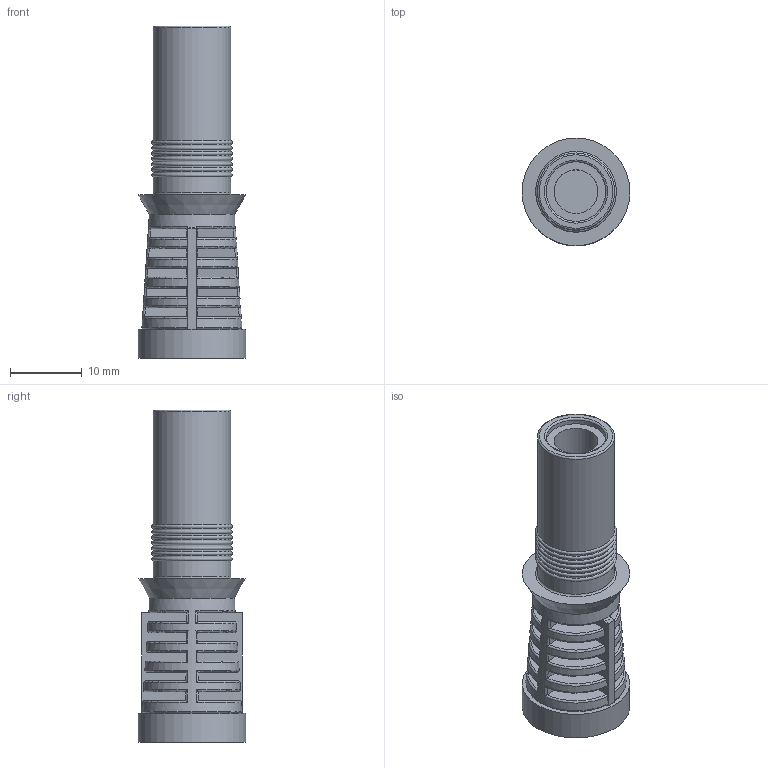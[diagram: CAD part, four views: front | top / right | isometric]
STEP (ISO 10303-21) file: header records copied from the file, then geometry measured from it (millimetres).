
FILE_DESCRIPTION(/* description */ (''),/* implementation_level */ '2;1');
FILE_NAME(/* name */ '2.1 x 5.5 Female Overmould.stp',/* time_stamp */ '2026-07-13T09:08:52+03:00',/* author */ ('USER'),/* organization */ (''),/* preprocessor_version */ 'ST-DEVELOPER v20',/* originating_system */ 'Autodesk Inventor 2025',/* authorisation */ '');
FILE_SCHEMA (('AUTOMOTIVE_DESIGN { 1 0 10303 214 3 1 1 }'));
Length unit declared in the file: millimetre
Products named in the file (1): 2.1 x 5.5 Female Overmould
Bounding box: 15 x 15 x 46.25 mm (x, y, z)
Volume: 3797 mm3; surface area: 3866.4 mm2
Topology: 1 solids, 1 shells, 183 faces, 511 edges, 335 vertices
Faces by surface type: plane 75, torus 54, cylinder 32, bspline 20, cone 2
Full cylindrical faces by diameter (mm): 6.1 x1, 8.3 x1, 10.75 x8, 14 x1, 15 x1
Entity records: 7459 total; most frequent: CARTESIAN_POINT 2944, ORIENTED_EDGE 1022, DIRECTION 860, EDGE_CURVE 511, AXIS2_PLACEMENT_3D 353, VERTEX_POINT 335, CIRCLE 189, EDGE_LOOP 188
